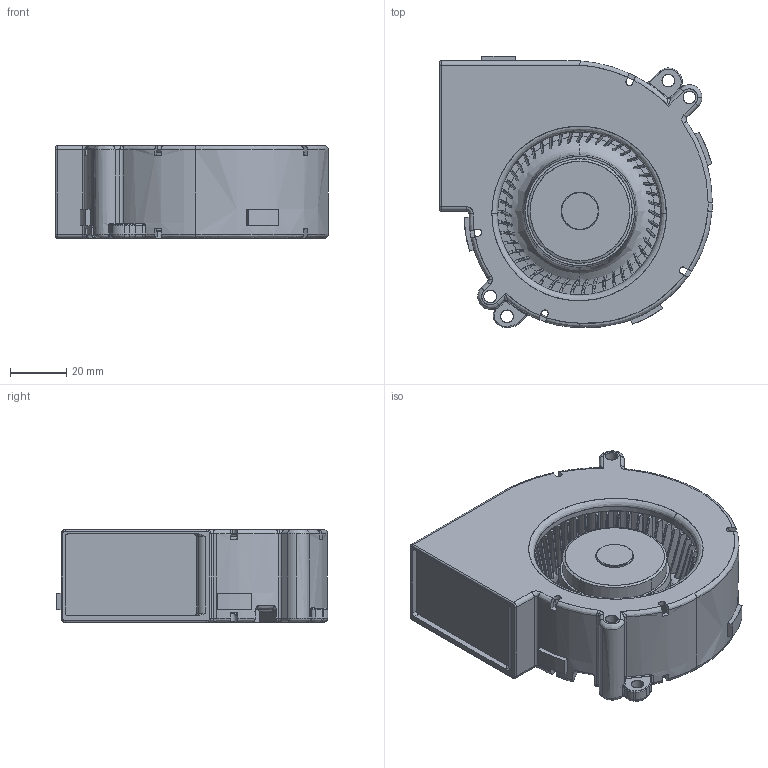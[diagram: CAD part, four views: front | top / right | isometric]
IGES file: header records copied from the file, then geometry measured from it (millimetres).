
Start section: SolidWorks IGES file using analytic representation for surfaces
Bounding box: 97.19 x 96.79 x 33 mm (x, y, z)
Surface area: 75713.9 mm2 (no closed solid volume)
Topology: 0 solids, 0 shells, 893 faces, 10848 edges, 10824 vertices
Faces by surface type: bspline 469, revolution 424
